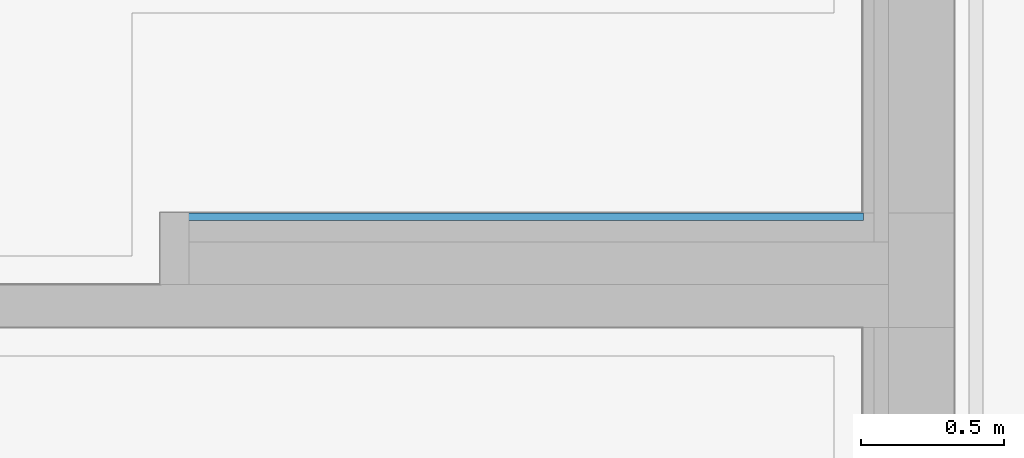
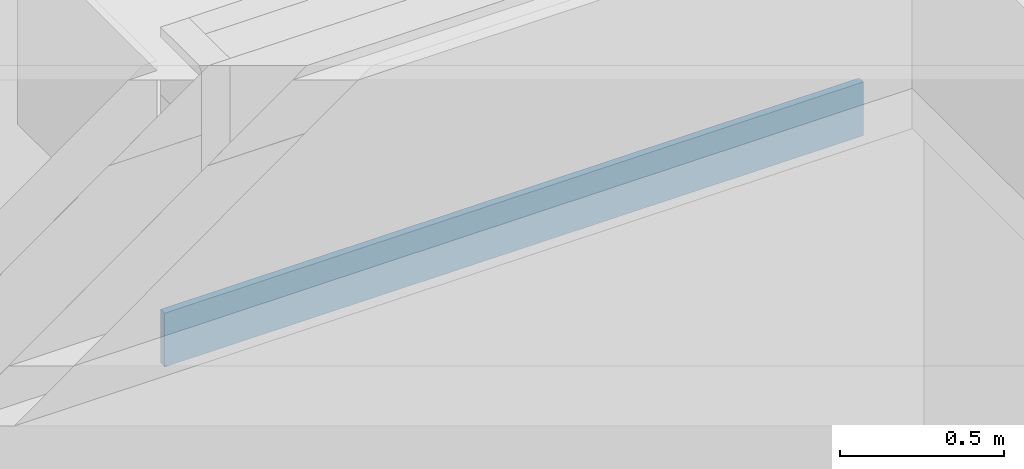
# One storey, part 128 of 222: 1 wall.
"""IFC4 building model written with IfcOpenShell, lengths in metres."""

import ifcopenshell
import ifcopenshell.guid

model = None  # the IFC model being written
_history = None  # IfcOwnerHistory: only IFC2X3 demands one
_inside = {}  # id of a spatial element -> (the spatial element, [elements in it])
_under = {}  # id of a project, library or spatial element -> (it, [spatial elements below it])
_declared = {}  # id of a project -> (the project, [libraries it declares])
_typed = {}  # id of a type object -> (the type object, [elements of that type])
_made_of = {}  # id of a material, layer set ... -> (it, [elements and type objects made of it])


def new_model(schema):
    """Start an empty IFC model of exactly this schema.

    Asked for "IFC4X3", IfcOpenShell would pick the latest addendum, in which some entities
    have other attributes; the version numbers below select the first issue.
    IFC2X3 requires an IfcOwnerHistory on every rooted entity: one is made here for all.
    """
    global model, _history
    if schema == "IFC4X3":
        model = ifcopenshell.file(schema_version=(4, 3, 0, 0))
    else:
        model = ifcopenshell.file(schema=schema)
    _inside.clear()
    _under.clear()
    _declared.clear()
    _typed.clear()
    _made_of.clear()
    _history = None
    if model.schema == "IFC2X3":
        org = make("IfcOrganization", Name="unknown")
        user = make(
            "IfcPersonAndOrganization",
            ThePerson=make("IfcPerson", FamilyName="unknown"),
            TheOrganization=org,
        )
        app = make(
            "IfcApplication",
            ApplicationDeveloper=org,
            Version="unknown",
            ApplicationFullName="unknown",
            ApplicationIdentifier="unknown",
        )
        _history = make(
            "IfcOwnerHistory",
            OwningUser=user,
            OwningApplication=app,
            ChangeAction="ADDED",
            CreationDate=0,
        )
    return model


def make(cls, **values):
    """One entity of the class cls with the attributes given. An attribute that is None is left unset."""
    return model.create_entity(
        cls, **{name: value for name, value in values.items() if value is not None}
    )


def entity(cls, *values):
    """Any entity or typed value of the class cls, its attributes in the order of the schema. None: left unset."""
    e = model.create_entity(cls)
    for i, value in enumerate(values):
        if value is not None:
            e[i] = value
    return e


def rooted(cls, **values):
    """An entity with a GlobalId (a new one), such as an element, a storey or a relation."""
    return make(cls, GlobalId=ifcopenshell.guid.new(), OwnerHistory=_history, **values)


def si_unit(unit_type, name, prefix=None):
    """IfcSIUnit, for example si_unit("LENGTHUNIT", "METRE", prefix="MILLI")."""
    return make("IfcSIUnit", UnitType=unit_type, Prefix=prefix, Name=name)


def converted_unit(unit_type, name, factor, base, dimensions=None, offset=None):
    """IfcConversionBasedUnit, such as the inch: factor (a typed value) times the base unit."""
    return make(
        "IfcConversionBasedUnit"
        if offset is None
        else "IfcConversionBasedUnitWithOffset",
        ConversionOffset=offset,
        Dimensions=None
        if dimensions is None
        else entity("IfcDimensionalExponents", *dimensions),
        UnitType=unit_type,
        Name=name,
        ConversionFactor=make(
            "IfcMeasureWithUnit", ValueComponent=factor, UnitComponent=base
        ),
    )


def derived_unit(unit_type, elements):
    """IfcDerivedUnit: a product of units, each with its exponent."""
    return make(
        "IfcDerivedUnit",
        Elements=[
            make("IfcDerivedUnitElement", Unit=unit, Exponent=power)
            for unit, power in elements
        ],
        UnitType=unit_type,
    )


def assignment(units):
    """IfcUnitAssignment: the units of a project."""
    return None if units is None else make("IfcUnitAssignment", Units=units)


def point(xyz):
    """IfcCartesianPoint."""
    return None if xyz is None else make("IfcCartesianPoint", Coordinates=xyz)


def direction(xyz):
    """IfcDirection."""
    return None if xyz is None else make("IfcDirection", DirectionRatios=xyz)


def frame(location, z_axis=None, x_axis=None):
    """IfcAxis2Placement3D, a coordinate frame: its origin and axes. An axis left out is left unset."""
    return make(
        "IfcAxis2Placement3D",
        Location=point(location),
        Axis=direction(z_axis),
        RefDirection=direction(x_axis),
    )


def origin():
    """The frame at (0, 0, 0) with its axes left unset."""
    return frame((0.0, 0.0, 0.0))


def place(relative_to, where):
    """IfcLocalPlacement: puts the frame where relative to a parent placement (None: the world)."""
    return make(
        "IfcLocalPlacement", PlacementRelTo=relative_to, RelativePlacement=where
    )


def context(
    kind, dimensions, precision=None, world=None, true_north=None, identifier=None
):
    """IfcGeometricRepresentationContext, for example the 3D "Model" context."""
    return make(
        "IfcGeometricRepresentationContext",
        ContextIdentifier=identifier,
        ContextType=kind,
        CoordinateSpaceDimension=dimensions,
        Precision=precision,
        WorldCoordinateSystem=world,
        TrueNorth=true_north,
    )


def subcontext(parent, identifier, kind, view, scale=None):
    """IfcGeometricRepresentationSubContext, for example "Body" below "Model"."""
    return make(
        "IfcGeometricRepresentationSubContext",
        ContextIdentifier=identifier,
        ContextType=kind,
        ParentContext=parent,
        TargetScale=scale,
        TargetView=view,
    )


def project(units=None, contexts=None):
    """IfcProject with its units and contexts."""
    return rooted(
        "IfcProject",
        Name="project",
        RepresentationContexts=contexts,
        UnitsInContext=assignment(units),
    )


def spatial(cls, under=None, at=None, **own):
    """A site, building, storey or space (cls), placed at a placement, below another one or the project."""
    s = rooted(cls, ObjectPlacement=at, **own)
    if under is not None:
        _under.setdefault(under.id(), (under, []))[1].append(s)
    return s


def faces_of(points, faces, orient=None, outer=None):
    """IfcFace entities. A face is a list of loops; a loop is a list of indices into points, from 0.

    orient and outer hold one flag for each loop. By default every Orientation is true, the
    first loop of a face is its IfcFaceOuterBound and the others are IfcFaceBound.
    """
    made = []
    for i, loops in enumerate(faces):
        bounds = []
        for j, loop in enumerate(loops):
            is_outer = j == 0 if outer is None else outer[i][j]
            bounds.append(
                make(
                    "IfcFaceOuterBound" if is_outer else "IfcFaceBound",
                    Bound=make("IfcPolyLoop", Polygon=[points[k] for k in loop]),
                    Orientation=True if orient is None else orient[i][j],
                )
            )
        made.append(make("IfcFace", Bounds=bounds))
    return made


def faceted_brep(points, faces, orient=None, outer=None, voids=None):
    """IfcFacetedBrep: a solid bounded by flat faces; with voids (closed shells), ...WithVoids."""
    shared = [point(p) for p in points]
    hull = make("IfcClosedShell", CfsFaces=faces_of(shared, faces, orient, outer))
    if voids is None:
        return make("IfcFacetedBrep", Outer=hull)
    return make(
        "IfcFacetedBrepWithVoids",
        Outer=hull,
        Voids=[
            make(cls, CfsFaces=faces_of(shared, fs, o, b)) for cls, fs, o, b in voids
        ],
    )


def shape(context_of_items, identifier, shape_type, items):
    """IfcShapeRepresentation: the items that make up one representation, for example the "Body"."""
    return make(
        "IfcShapeRepresentation",
        ContextOfItems=context_of_items,
        RepresentationIdentifier=identifier,
        RepresentationType=shape_type,
        Items=items,
    )


def made_of(thing, what):
    """Note that an element or type object is made of a material, layer set ...; save() writes the relation."""
    if what is not None:
        _made_of.setdefault(what.id(), (what, []))[1].append(thing)
    return thing


def element(
    cls,
    number,
    at=None,
    inside=None,
    cuts=None,
    type_object=None,
    material=None,
    context=None,
    identifier="Body",
    shape_type=None,
    held_by="IfcProductDefinitionShape",
    body=None,
    shapes=None,
    **own,
):
    """One element of the class cls, such as IfcWall. Its Tag is "e" and its number.

    at: its placement. inside: the storey or other place that contains it. cuts: it is an
    opening in that element (IfcRelVoidsElement). A single representation is given by context,
    identifier, shape_type and body (its items); several are given by shapes. held_by: the class
    of the entity that holds the representations. save() writes the other relations.
    """
    e = rooted(cls, Tag="e%d" % number, ObjectPlacement=at, **own)
    if body is not None:
        shapes = [shape(context, identifier, shape_type, body)]
    if shapes is not None:
        e.Representation = make(held_by, Representations=shapes)
    if inside is not None:
        _inside.setdefault(inside.id(), (inside, []))[1].append(e)
    if cuts is not None:
        rooted(
            "IfcRelVoidsElement", RelatingBuildingElement=cuts, RelatedOpeningElement=e
        )
    if type_object is not None:
        _typed.setdefault(type_object.id(), (type_object, []))[1].append(e)
    return made_of(e, material)


def aggregate(whole, parts):
    """IfcRelAggregates: a whole, such as a stair, and the parts it consists of."""
    return rooted("IfcRelAggregates", RelatingObject=whole, RelatedObjects=parts)


def save(model, path):
    """Write the relations noted so far, then the file.

    IfcRelAggregates (storeys below a building ...), IfcRelContainedInSpatialStructure (elements
    in a storey), IfcRelDefinesByType, IfcRelAssociatesMaterial and IfcRelDeclares: one each for
    every whole, place, type object, material and project.
    """
    for whole, parts in _under.values():
        aggregate(whole, parts)
    for where, things in _inside.values():
        rooted(
            "IfcRelContainedInSpatialStructure",
            RelatedElements=things,
            RelatingStructure=where,
        )
    for kind, things in _typed.values():
        rooted("IfcRelDefinesByType", RelatedObjects=things, RelatingType=kind)
    for what, things in _made_of.values():
        rooted("IfcRelAssociatesMaterial", RelatedObjects=things, RelatingMaterial=what)
    for by, libraries in _declared.values():
        rooted("IfcRelDeclares", RelatingContext=by, RelatedDefinitions=libraries)
    model.write(path)


model = new_model("IFC4")

# Units and contexts
model_context = context("Model", 3, precision=1e-05, world=origin())
body_context = subcontext(model_context, "Body", "Model", "MODEL_VIEW")
ifc_project = project(units=[si_unit("LENGTHUNIT", "METRE"), si_unit("AREAUNIT", "SQUARE_METRE"), si_unit("VOLUMEUNIT", "CUBIC_METRE"), si_unit("MASSUNIT", "GRAM", prefix="KILO"), converted_unit("PLANEANGLEUNIT", "DEGREE", entity("IfcPlaneAngleMeasure", 0.0174532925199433), si_unit("PLANEANGLEUNIT", "RADIAN"), dimensions=[0, 0, 0, 0, 0, 0, 0]), derived_unit("THERMALTRANSMITTANCEUNIT", [(si_unit("POWERUNIT", "WATT"), 1), (si_unit("THERMODYNAMICTEMPERATUREUNIT", "KELVIN"), -1), (si_unit("LENGTHUNIT", "METRE"), -2)]), derived_unit("VOLUMETRICFLOWRATEUNIT", [(si_unit("LENGTHUNIT", "METRE"), 3), (converted_unit("TIMEUNIT", "hour", entity("IfcTimeMeasure", 3600.0), si_unit("TIMEUNIT", "SECOND"), dimensions=[0, 0, 1, 0, 0, 0, 0]), -1), (si_unit("LENGTHUNIT", "METRE"), -1)])], contexts=[model_context])

# Site, building, storey
site_placement = place(None, origin())
site = spatial("IfcSite", under=ifc_project, at=site_placement, Name="Psychiatrie Neubau Wunstorf", CompositionType="ELEMENT")
building_placement = place(site_placement, origin())
building = spatial("IfcBuilding", under=site, at=building_placement, Name="Neubau H2 Stationsgebäude", CompositionType="ELEMENT")
storey_placement = place(building_placement, frame((0.0, 0.0, 3.6)))
storey = spatial("IfcBuildingStorey", under=building, at=storey_placement, Name="H2 Ebene +1", CompositionType="ELEMENT", Elevation=3.6)

# Wall
wall_placement = place(storey_placement, frame((93.303499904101, 13.9859999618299, 2.3)))
element("IfcWall", 1, at=wall_placement, inside=storey, Name="WV 1.1", context=body_context, shape_type="Brep", body=[
    faceted_brep([(2.46, 0.0, 0.0), (2.46, 0.025, 0.0), (0.0, 0.025, 0.0), (0.0, 0.0, 0.0), (2.46, 0.025, 0.2), (2.46, 0.0, 0.2), (0.0, 0.0, 0.2), (0.0, 0.025, 0.2)], [[[0, 1, 2, 3]], [[4, 5, 6, 7]], [[1, 0, 5, 4]], [[2, 1, 4, 7]], [[3, 2, 7, 6]], [[0, 3, 6, 5]]], orient=[[False], [False], [False], [False], [False], [False]]),
])

save(model, "model.ifc")
